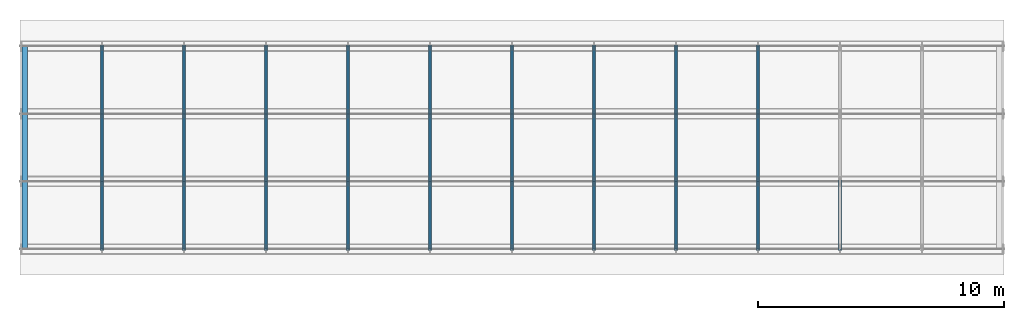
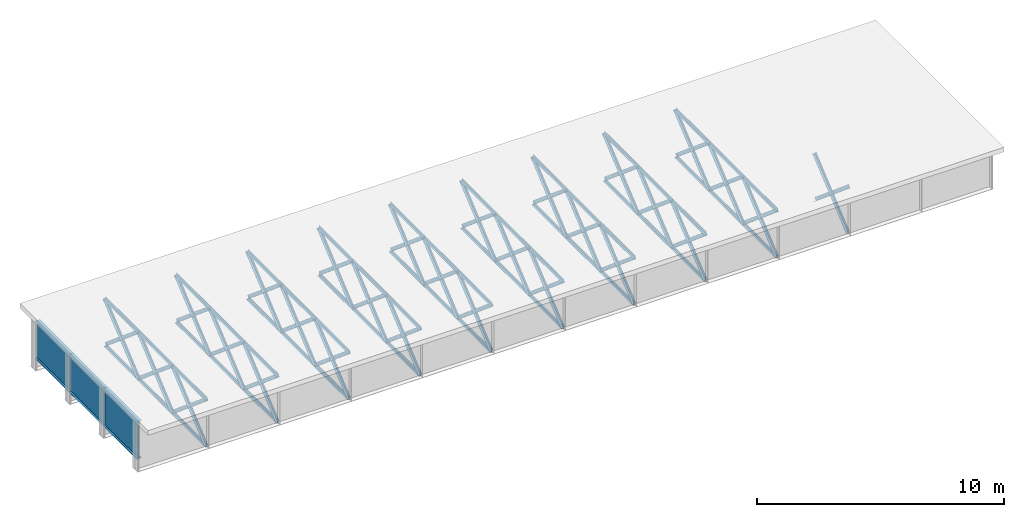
# One storey, part 1 of 13: 113 members.
"""IFC4 building model written with IfcOpenShell, lengths in metres."""

from ifc_helpers import new_model, si_unit, frame, origin, origin_with_axes, origin_2d_with_axis, place, context, subcontext, project, spatial, i_section, l_section, extrude, element, save


model = new_model("IFC4")

# Units and contexts
model_context = context("Model", 3, precision=1e-05, world=origin())
body_context = subcontext(model_context, "Body", "Model", "MODEL_VIEW")
ifc_project = project(units=[si_unit("LENGTHUNIT", "METRE"), si_unit("AREAUNIT", "SQUARE_METRE"), si_unit("VOLUMEUNIT", "CUBIC_METRE"), si_unit("PLANEANGLEUNIT", "RADIAN")], contexts=[model_context])

# Site, building, storey
site_placement = place(None, origin_with_axes())
site = spatial("IfcSite", under=ifc_project, at=site_placement, Name="Default Site")
building_placement = place(site_placement, origin_with_axes())
building = spatial("IfcBuilding", under=site, at=building_placement, Name="Bridge Structure")
storey_placement = place(building_placement, origin_with_axes())
storey = spatial("IfcBuildingStorey", under=building, at=storey_placement, Name="Superstructure")

# Members
for number, where, z_axis, x_axis, name in (
    (1, (0.2, -4.125, 0.231), (0.0, 1.0, 0.0), (-1.0, 0.0, 0.0), "End Diaphragm"),
    (2, (0.2, -1.375, 0.231), (0.0, 1.0, 0.0), (-1.0, 0.0, 0.0), "End Diaphragm"),
    (3, (0.2, 1.375, 0.231), (0.0, 1.0, 0.0), (-1.0, 0.0, 0.0), "End Diaphragm"),
):
    element("IfcMember", number, at=place(storey_placement, frame(where, z_axis=z_axis, x_axis=x_axis)), inside=storey, Name=name, context=body_context, shape_type="SweptSolid", body=[
        extrude(i_section(OverallWidth=0.225, OverallDepth=1.848, WebThickness=0.02, FlangeThickness=0.012, at=origin_2d_with_axis()), origin_with_axes(), (0.0, 0.0, 1.0), 2.75),
    ])
for number, where, z_axis, x_axis, name in (
    (4, (3.3333333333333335, -4.125, 1.155), (0.0, 0.7657048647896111, -0.6431920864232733), (-1.0, 0.0, 0.0), "Diagonal Brace"),
    (5, (3.3333333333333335, -4.125, -1.155), (0.0, 0.7657048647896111, 0.6431920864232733), (-1.0, 0.0, 0.0), "Diagonal Brace"),
):
    element("IfcMember", number, at=place(storey_placement, frame(where, z_axis=z_axis, x_axis=x_axis)), inside=storey, Name=name, context=body_context, shape_type="SweptSolid", body=[
        extrude(l_section(Depth=0.17300000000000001, Width=0.115, Thickness=0.008, at=origin_2d_with_axis()), origin_with_axes(), (0.0, 0.0, 1.0), 3.591462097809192),
    ])
for number, where, z_axis, x_axis, name in (
    (6, (3.3333333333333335, -4.125, -1.155), (0.0, 1.0, 0.0), (-1.0, 0.0, 0.0), "Bottom Chord"),
    (7, (3.3333333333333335, -4.125, 1.155), (0.0, 1.0, 0.0), (-1.0, 0.0, 0.0), "Top Chord"),
):
    element("IfcMember", number, at=place(storey_placement, frame(where, z_axis=z_axis, x_axis=x_axis)), inside=storey, Name=name, context=body_context, shape_type="SweptSolid", body=[
        extrude(l_section(Depth=0.15, Width=0.092, Thickness=0.008, at=origin_2d_with_axis()), origin_with_axes(), (0.0, 0.0, 1.0), 2.75),
    ])
for number, where, z_axis, x_axis, name in (
    (8, (3.3333333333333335, -1.375, 1.155), (0.0, 0.7657048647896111, -0.6431920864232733), (-1.0, 0.0, 0.0), "Diagonal Brace"),
    (9, (3.3333333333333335, -1.375, -1.155), (0.0, 0.7657048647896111, 0.6431920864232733), (-1.0, 0.0, 0.0), "Diagonal Brace"),
):
    element("IfcMember", number, at=place(storey_placement, frame(where, z_axis=z_axis, x_axis=x_axis)), inside=storey, Name=name, context=body_context, shape_type="SweptSolid", body=[
        extrude(l_section(Depth=0.17300000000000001, Width=0.115, Thickness=0.008, at=origin_2d_with_axis()), origin_with_axes(), (0.0, 0.0, 1.0), 3.591462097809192),
    ])
for number, where, z_axis, x_axis, name in (
    (10, (3.3333333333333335, -1.375, -1.155), (0.0, 1.0, 0.0), (-1.0, 0.0, 0.0), "Bottom Chord"),
    (11, (3.3333333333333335, -1.375, 1.155), (0.0, 1.0, 0.0), (-1.0, 0.0, 0.0), "Top Chord"),
):
    element("IfcMember", number, at=place(storey_placement, frame(where, z_axis=z_axis, x_axis=x_axis)), inside=storey, Name=name, context=body_context, shape_type="SweptSolid", body=[
        extrude(l_section(Depth=0.15, Width=0.092, Thickness=0.008, at=origin_2d_with_axis()), origin_with_axes(), (0.0, 0.0, 1.0), 2.75),
    ])
for number, where, z_axis, x_axis, name in (
    (12, (3.3333333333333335, 1.375, 1.155), (0.0, 0.7657048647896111, -0.6431920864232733), (-1.0, 0.0, 0.0), "Diagonal Brace"),
    (13, (3.3333333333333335, 1.375, -1.155), (0.0, 0.7657048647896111, 0.6431920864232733), (-1.0, 0.0, 0.0), "Diagonal Brace"),
):
    element("IfcMember", number, at=place(storey_placement, frame(where, z_axis=z_axis, x_axis=x_axis)), inside=storey, Name=name, context=body_context, shape_type="SweptSolid", body=[
        extrude(l_section(Depth=0.17300000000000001, Width=0.115, Thickness=0.008, at=origin_2d_with_axis()), origin_with_axes(), (0.0, 0.0, 1.0), 3.591462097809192),
    ])
for number, where, z_axis, x_axis, name in (
    (14, (3.3333333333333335, 1.375, -1.155), (0.0, 1.0, 0.0), (-1.0, 0.0, 0.0), "Bottom Chord"),
    (15, (3.3333333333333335, 1.375, 1.155), (0.0, 1.0, 0.0), (-1.0, 0.0, 0.0), "Top Chord"),
):
    element("IfcMember", number, at=place(storey_placement, frame(where, z_axis=z_axis, x_axis=x_axis)), inside=storey, Name=name, context=body_context, shape_type="SweptSolid", body=[
        extrude(l_section(Depth=0.15, Width=0.092, Thickness=0.008, at=origin_2d_with_axis()), origin_with_axes(), (0.0, 0.0, 1.0), 2.75),
    ])
for number, where, z_axis, x_axis, name in (
    (16, (6.666666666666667, -4.125, 1.155), (0.0, 0.7657048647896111, -0.6431920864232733), (-1.0, 0.0, 0.0), "Diagonal Brace"),
    (17, (6.666666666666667, -4.125, -1.155), (0.0, 0.7657048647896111, 0.6431920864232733), (-1.0, 0.0, 0.0), "Diagonal Brace"),
):
    element("IfcMember", number, at=place(storey_placement, frame(where, z_axis=z_axis, x_axis=x_axis)), inside=storey, Name=name, context=body_context, shape_type="SweptSolid", body=[
        extrude(l_section(Depth=0.17300000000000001, Width=0.115, Thickness=0.008, at=origin_2d_with_axis()), origin_with_axes(), (0.0, 0.0, 1.0), 3.591462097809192),
    ])
for number, where, z_axis, x_axis, name in (
    (18, (6.666666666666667, -4.125, -1.155), (0.0, 1.0, 0.0), (-1.0, 0.0, 0.0), "Bottom Chord"),
    (19, (6.666666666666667, -4.125, 1.155), (0.0, 1.0, 0.0), (-1.0, 0.0, 0.0), "Top Chord"),
):
    element("IfcMember", number, at=place(storey_placement, frame(where, z_axis=z_axis, x_axis=x_axis)), inside=storey, Name=name, context=body_context, shape_type="SweptSolid", body=[
        extrude(l_section(Depth=0.15, Width=0.092, Thickness=0.008, at=origin_2d_with_axis()), origin_with_axes(), (0.0, 0.0, 1.0), 2.75),
    ])
for number, where, z_axis, x_axis, name in (
    (20, (6.666666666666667, -1.375, 1.155), (0.0, 0.7657048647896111, -0.6431920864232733), (-1.0, 0.0, 0.0), "Diagonal Brace"),
    (21, (6.666666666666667, -1.375, -1.155), (0.0, 0.7657048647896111, 0.6431920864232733), (-1.0, 0.0, 0.0), "Diagonal Brace"),
):
    element("IfcMember", number, at=place(storey_placement, frame(where, z_axis=z_axis, x_axis=x_axis)), inside=storey, Name=name, context=body_context, shape_type="SweptSolid", body=[
        extrude(l_section(Depth=0.17300000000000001, Width=0.115, Thickness=0.008, at=origin_2d_with_axis()), origin_with_axes(), (0.0, 0.0, 1.0), 3.591462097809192),
    ])
for number, where, z_axis, x_axis, name in (
    (22, (6.666666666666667, -1.375, -1.155), (0.0, 1.0, 0.0), (-1.0, 0.0, 0.0), "Bottom Chord"),
    (23, (6.666666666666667, -1.375, 1.155), (0.0, 1.0, 0.0), (-1.0, 0.0, 0.0), "Top Chord"),
):
    element("IfcMember", number, at=place(storey_placement, frame(where, z_axis=z_axis, x_axis=x_axis)), inside=storey, Name=name, context=body_context, shape_type="SweptSolid", body=[
        extrude(l_section(Depth=0.15, Width=0.092, Thickness=0.008, at=origin_2d_with_axis()), origin_with_axes(), (0.0, 0.0, 1.0), 2.75),
    ])
for number, where, z_axis, x_axis, name in (
    (24, (6.666666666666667, 1.375, 1.155), (0.0, 0.7657048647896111, -0.6431920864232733), (-1.0, 0.0, 0.0), "Diagonal Brace"),
    (25, (6.666666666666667, 1.375, -1.155), (0.0, 0.7657048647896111, 0.6431920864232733), (-1.0, 0.0, 0.0), "Diagonal Brace"),
):
    element("IfcMember", number, at=place(storey_placement, frame(where, z_axis=z_axis, x_axis=x_axis)), inside=storey, Name=name, context=body_context, shape_type="SweptSolid", body=[
        extrude(l_section(Depth=0.17300000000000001, Width=0.115, Thickness=0.008, at=origin_2d_with_axis()), origin_with_axes(), (0.0, 0.0, 1.0), 3.591462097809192),
    ])
for number, where, z_axis, x_axis, name in (
    (26, (6.666666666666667, 1.375, -1.155), (0.0, 1.0, 0.0), (-1.0, 0.0, 0.0), "Bottom Chord"),
    (27, (6.666666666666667, 1.375, 1.155), (0.0, 1.0, 0.0), (-1.0, 0.0, 0.0), "Top Chord"),
):
    element("IfcMember", number, at=place(storey_placement, frame(where, z_axis=z_axis, x_axis=x_axis)), inside=storey, Name=name, context=body_context, shape_type="SweptSolid", body=[
        extrude(l_section(Depth=0.15, Width=0.092, Thickness=0.008, at=origin_2d_with_axis()), origin_with_axes(), (0.0, 0.0, 1.0), 2.75),
    ])
for number, where, z_axis, x_axis, name in (
    (28, (10.0, -4.125, 1.155), (0.0, 0.7657048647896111, -0.6431920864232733), (-1.0, 0.0, 0.0), "Diagonal Brace"),
    (29, (10.0, -4.125, -1.155), (0.0, 0.7657048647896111, 0.6431920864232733), (-1.0, 0.0, 0.0), "Diagonal Brace"),
):
    element("IfcMember", number, at=place(storey_placement, frame(where, z_axis=z_axis, x_axis=x_axis)), inside=storey, Name=name, context=body_context, shape_type="SweptSolid", body=[
        extrude(l_section(Depth=0.17300000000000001, Width=0.115, Thickness=0.008, at=origin_2d_with_axis()), origin_with_axes(), (0.0, 0.0, 1.0), 3.591462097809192),
    ])
for number, where, z_axis, x_axis, name in (
    (30, (10.0, -4.125, -1.155), (0.0, 1.0, 0.0), (-1.0, 0.0, 0.0), "Bottom Chord"),
    (31, (10.0, -4.125, 1.155), (0.0, 1.0, 0.0), (-1.0, 0.0, 0.0), "Top Chord"),
):
    element("IfcMember", number, at=place(storey_placement, frame(where, z_axis=z_axis, x_axis=x_axis)), inside=storey, Name=name, context=body_context, shape_type="SweptSolid", body=[
        extrude(l_section(Depth=0.15, Width=0.092, Thickness=0.008, at=origin_2d_with_axis()), origin_with_axes(), (0.0, 0.0, 1.0), 2.75),
    ])
for number, where, z_axis, x_axis, name in (
    (32, (10.0, -1.375, 1.155), (0.0, 0.7657048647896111, -0.6431920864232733), (-1.0, 0.0, 0.0), "Diagonal Brace"),
    (33, (10.0, -1.375, -1.155), (0.0, 0.7657048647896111, 0.6431920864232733), (-1.0, 0.0, 0.0), "Diagonal Brace"),
):
    element("IfcMember", number, at=place(storey_placement, frame(where, z_axis=z_axis, x_axis=x_axis)), inside=storey, Name=name, context=body_context, shape_type="SweptSolid", body=[
        extrude(l_section(Depth=0.17300000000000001, Width=0.115, Thickness=0.008, at=origin_2d_with_axis()), origin_with_axes(), (0.0, 0.0, 1.0), 3.591462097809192),
    ])
for number, where, z_axis, x_axis, name in (
    (34, (10.0, -1.375, -1.155), (0.0, 1.0, 0.0), (-1.0, 0.0, 0.0), "Bottom Chord"),
    (35, (10.0, -1.375, 1.155), (0.0, 1.0, 0.0), (-1.0, 0.0, 0.0), "Top Chord"),
):
    element("IfcMember", number, at=place(storey_placement, frame(where, z_axis=z_axis, x_axis=x_axis)), inside=storey, Name=name, context=body_context, shape_type="SweptSolid", body=[
        extrude(l_section(Depth=0.15, Width=0.092, Thickness=0.008, at=origin_2d_with_axis()), origin_with_axes(), (0.0, 0.0, 1.0), 2.75),
    ])
for number, where, z_axis, x_axis, name in (
    (36, (10.0, 1.375, 1.155), (0.0, 0.7657048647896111, -0.6431920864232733), (-1.0, 0.0, 0.0), "Diagonal Brace"),
    (37, (10.0, 1.375, -1.155), (0.0, 0.7657048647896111, 0.6431920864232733), (-1.0, 0.0, 0.0), "Diagonal Brace"),
):
    element("IfcMember", number, at=place(storey_placement, frame(where, z_axis=z_axis, x_axis=x_axis)), inside=storey, Name=name, context=body_context, shape_type="SweptSolid", body=[
        extrude(l_section(Depth=0.17300000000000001, Width=0.115, Thickness=0.008, at=origin_2d_with_axis()), origin_with_axes(), (0.0, 0.0, 1.0), 3.591462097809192),
    ])
for number, where, z_axis, x_axis, name in (
    (38, (10.0, 1.375, -1.155), (0.0, 1.0, 0.0), (-1.0, 0.0, 0.0), "Bottom Chord"),
    (39, (10.0, 1.375, 1.155), (0.0, 1.0, 0.0), (-1.0, 0.0, 0.0), "Top Chord"),
):
    element("IfcMember", number, at=place(storey_placement, frame(where, z_axis=z_axis, x_axis=x_axis)), inside=storey, Name=name, context=body_context, shape_type="SweptSolid", body=[
        extrude(l_section(Depth=0.15, Width=0.092, Thickness=0.008, at=origin_2d_with_axis()), origin_with_axes(), (0.0, 0.0, 1.0), 2.75),
    ])
for number, where, z_axis, x_axis, name in (
    (40, (13.333333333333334, -4.125, 1.155), (0.0, 0.7657048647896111, -0.6431920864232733), (-1.0, 0.0, 0.0), "Diagonal Brace"),
    (41, (13.333333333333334, -4.125, -1.155), (0.0, 0.7657048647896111, 0.6431920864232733), (-1.0, 0.0, 0.0), "Diagonal Brace"),
):
    element("IfcMember", number, at=place(storey_placement, frame(where, z_axis=z_axis, x_axis=x_axis)), inside=storey, Name=name, context=body_context, shape_type="SweptSolid", body=[
        extrude(l_section(Depth=0.17300000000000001, Width=0.115, Thickness=0.008, at=origin_2d_with_axis()), origin_with_axes(), (0.0, 0.0, 1.0), 3.591462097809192),
    ])
for number, where, z_axis, x_axis, name in (
    (42, (13.333333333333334, -4.125, -1.155), (0.0, 1.0, 0.0), (-1.0, 0.0, 0.0), "Bottom Chord"),
    (43, (13.333333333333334, -4.125, 1.155), (0.0, 1.0, 0.0), (-1.0, 0.0, 0.0), "Top Chord"),
):
    element("IfcMember", number, at=place(storey_placement, frame(where, z_axis=z_axis, x_axis=x_axis)), inside=storey, Name=name, context=body_context, shape_type="SweptSolid", body=[
        extrude(l_section(Depth=0.15, Width=0.092, Thickness=0.008, at=origin_2d_with_axis()), origin_with_axes(), (0.0, 0.0, 1.0), 2.75),
    ])
for number, where, z_axis, x_axis, name in (
    (44, (13.333333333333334, -1.375, 1.155), (0.0, 0.7657048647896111, -0.6431920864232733), (-1.0, 0.0, 0.0), "Diagonal Brace"),
    (45, (13.333333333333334, -1.375, -1.155), (0.0, 0.7657048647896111, 0.6431920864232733), (-1.0, 0.0, 0.0), "Diagonal Brace"),
):
    element("IfcMember", number, at=place(storey_placement, frame(where, z_axis=z_axis, x_axis=x_axis)), inside=storey, Name=name, context=body_context, shape_type="SweptSolid", body=[
        extrude(l_section(Depth=0.17300000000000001, Width=0.115, Thickness=0.008, at=origin_2d_with_axis()), origin_with_axes(), (0.0, 0.0, 1.0), 3.591462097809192),
    ])
for number, where, z_axis, x_axis, name in (
    (46, (13.333333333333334, -1.375, -1.155), (0.0, 1.0, 0.0), (-1.0, 0.0, 0.0), "Bottom Chord"),
    (47, (13.333333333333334, -1.375, 1.155), (0.0, 1.0, 0.0), (-1.0, 0.0, 0.0), "Top Chord"),
):
    element("IfcMember", number, at=place(storey_placement, frame(where, z_axis=z_axis, x_axis=x_axis)), inside=storey, Name=name, context=body_context, shape_type="SweptSolid", body=[
        extrude(l_section(Depth=0.15, Width=0.092, Thickness=0.008, at=origin_2d_with_axis()), origin_with_axes(), (0.0, 0.0, 1.0), 2.75),
    ])
for number, where, z_axis, x_axis, name in (
    (48, (13.333333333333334, 1.375, 1.155), (0.0, 0.7657048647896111, -0.6431920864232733), (-1.0, 0.0, 0.0), "Diagonal Brace"),
    (49, (13.333333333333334, 1.375, -1.155), (0.0, 0.7657048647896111, 0.6431920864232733), (-1.0, 0.0, 0.0), "Diagonal Brace"),
):
    element("IfcMember", number, at=place(storey_placement, frame(where, z_axis=z_axis, x_axis=x_axis)), inside=storey, Name=name, context=body_context, shape_type="SweptSolid", body=[
        extrude(l_section(Depth=0.17300000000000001, Width=0.115, Thickness=0.008, at=origin_2d_with_axis()), origin_with_axes(), (0.0, 0.0, 1.0), 3.591462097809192),
    ])
for number, where, z_axis, x_axis, name in (
    (50, (13.333333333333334, 1.375, -1.155), (0.0, 1.0, 0.0), (-1.0, 0.0, 0.0), "Bottom Chord"),
    (51, (13.333333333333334, 1.375, 1.155), (0.0, 1.0, 0.0), (-1.0, 0.0, 0.0), "Top Chord"),
):
    element("IfcMember", number, at=place(storey_placement, frame(where, z_axis=z_axis, x_axis=x_axis)), inside=storey, Name=name, context=body_context, shape_type="SweptSolid", body=[
        extrude(l_section(Depth=0.15, Width=0.092, Thickness=0.008, at=origin_2d_with_axis()), origin_with_axes(), (0.0, 0.0, 1.0), 2.75),
    ])
for number, where, z_axis, x_axis, name in (
    (52, (16.666666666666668, -4.125, 1.155), (0.0, 0.7657048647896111, -0.6431920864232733), (-1.0, 0.0, 0.0), "Diagonal Brace"),
    (53, (16.666666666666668, -4.125, -1.155), (0.0, 0.7657048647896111, 0.6431920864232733), (-1.0, 0.0, 0.0), "Diagonal Brace"),
):
    element("IfcMember", number, at=place(storey_placement, frame(where, z_axis=z_axis, x_axis=x_axis)), inside=storey, Name=name, context=body_context, shape_type="SweptSolid", body=[
        extrude(l_section(Depth=0.17300000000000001, Width=0.115, Thickness=0.008, at=origin_2d_with_axis()), origin_with_axes(), (0.0, 0.0, 1.0), 3.591462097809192),
    ])
for number, where, z_axis, x_axis, name in (
    (54, (16.666666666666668, -4.125, -1.155), (0.0, 1.0, 0.0), (-1.0, 0.0, 0.0), "Bottom Chord"),
    (55, (16.666666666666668, -4.125, 1.155), (0.0, 1.0, 0.0), (-1.0, 0.0, 0.0), "Top Chord"),
):
    element("IfcMember", number, at=place(storey_placement, frame(where, z_axis=z_axis, x_axis=x_axis)), inside=storey, Name=name, context=body_context, shape_type="SweptSolid", body=[
        extrude(l_section(Depth=0.15, Width=0.092, Thickness=0.008, at=origin_2d_with_axis()), origin_with_axes(), (0.0, 0.0, 1.0), 2.75),
    ])
for number, where, z_axis, x_axis, name in (
    (56, (16.666666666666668, -1.375, 1.155), (0.0, 0.7657048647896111, -0.6431920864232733), (-1.0, 0.0, 0.0), "Diagonal Brace"),
    (57, (16.666666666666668, -1.375, -1.155), (0.0, 0.7657048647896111, 0.6431920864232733), (-1.0, 0.0, 0.0), "Diagonal Brace"),
):
    element("IfcMember", number, at=place(storey_placement, frame(where, z_axis=z_axis, x_axis=x_axis)), inside=storey, Name=name, context=body_context, shape_type="SweptSolid", body=[
        extrude(l_section(Depth=0.17300000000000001, Width=0.115, Thickness=0.008, at=origin_2d_with_axis()), origin_with_axes(), (0.0, 0.0, 1.0), 3.591462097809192),
    ])
for number, where, z_axis, x_axis, name in (
    (58, (16.666666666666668, -1.375, -1.155), (0.0, 1.0, 0.0), (-1.0, 0.0, 0.0), "Bottom Chord"),
    (59, (16.666666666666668, -1.375, 1.155), (0.0, 1.0, 0.0), (-1.0, 0.0, 0.0), "Top Chord"),
):
    element("IfcMember", number, at=place(storey_placement, frame(where, z_axis=z_axis, x_axis=x_axis)), inside=storey, Name=name, context=body_context, shape_type="SweptSolid", body=[
        extrude(l_section(Depth=0.15, Width=0.092, Thickness=0.008, at=origin_2d_with_axis()), origin_with_axes(), (0.0, 0.0, 1.0), 2.75),
    ])
for number, where, z_axis, x_axis, name in (
    (60, (16.666666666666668, 1.375, 1.155), (0.0, 0.7657048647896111, -0.6431920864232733), (-1.0, 0.0, 0.0), "Diagonal Brace"),
    (61, (16.666666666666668, 1.375, -1.155), (0.0, 0.7657048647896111, 0.6431920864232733), (-1.0, 0.0, 0.0), "Diagonal Brace"),
):
    element("IfcMember", number, at=place(storey_placement, frame(where, z_axis=z_axis, x_axis=x_axis)), inside=storey, Name=name, context=body_context, shape_type="SweptSolid", body=[
        extrude(l_section(Depth=0.17300000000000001, Width=0.115, Thickness=0.008, at=origin_2d_with_axis()), origin_with_axes(), (0.0, 0.0, 1.0), 3.591462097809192),
    ])
for number, where, z_axis, x_axis, name in (
    (62, (16.666666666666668, 1.375, -1.155), (0.0, 1.0, 0.0), (-1.0, 0.0, 0.0), "Bottom Chord"),
    (63, (16.666666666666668, 1.375, 1.155), (0.0, 1.0, 0.0), (-1.0, 0.0, 0.0), "Top Chord"),
):
    element("IfcMember", number, at=place(storey_placement, frame(where, z_axis=z_axis, x_axis=x_axis)), inside=storey, Name=name, context=body_context, shape_type="SweptSolid", body=[
        extrude(l_section(Depth=0.15, Width=0.092, Thickness=0.008, at=origin_2d_with_axis()), origin_with_axes(), (0.0, 0.0, 1.0), 2.75),
    ])
for number, where, z_axis, x_axis, name in (
    (64, (20.0, -4.125, 1.155), (0.0, 0.7657048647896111, -0.6431920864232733), (-1.0, 0.0, 0.0), "Diagonal Brace"),
    (65, (20.0, -4.125, -1.155), (0.0, 0.7657048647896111, 0.6431920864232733), (-1.0, 0.0, 0.0), "Diagonal Brace"),
):
    element("IfcMember", number, at=place(storey_placement, frame(where, z_axis=z_axis, x_axis=x_axis)), inside=storey, Name=name, context=body_context, shape_type="SweptSolid", body=[
        extrude(l_section(Depth=0.17300000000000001, Width=0.115, Thickness=0.008, at=origin_2d_with_axis()), origin_with_axes(), (0.0, 0.0, 1.0), 3.591462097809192),
    ])
for number, where, z_axis, x_axis, name in (
    (66, (20.0, -4.125, -1.155), (0.0, 1.0, 0.0), (-1.0, 0.0, 0.0), "Bottom Chord"),
    (67, (20.0, -4.125, 1.155), (0.0, 1.0, 0.0), (-1.0, 0.0, 0.0), "Top Chord"),
):
    element("IfcMember", number, at=place(storey_placement, frame(where, z_axis=z_axis, x_axis=x_axis)), inside=storey, Name=name, context=body_context, shape_type="SweptSolid", body=[
        extrude(l_section(Depth=0.15, Width=0.092, Thickness=0.008, at=origin_2d_with_axis()), origin_with_axes(), (0.0, 0.0, 1.0), 2.75),
    ])
for number, where, z_axis, x_axis, name in (
    (68, (20.0, -1.375, 1.155), (0.0, 0.7657048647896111, -0.6431920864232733), (-1.0, 0.0, 0.0), "Diagonal Brace"),
    (69, (20.0, -1.375, -1.155), (0.0, 0.7657048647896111, 0.6431920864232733), (-1.0, 0.0, 0.0), "Diagonal Brace"),
):
    element("IfcMember", number, at=place(storey_placement, frame(where, z_axis=z_axis, x_axis=x_axis)), inside=storey, Name=name, context=body_context, shape_type="SweptSolid", body=[
        extrude(l_section(Depth=0.17300000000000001, Width=0.115, Thickness=0.008, at=origin_2d_with_axis()), origin_with_axes(), (0.0, 0.0, 1.0), 3.591462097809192),
    ])
for number, where, z_axis, x_axis, name in (
    (70, (20.0, -1.375, -1.155), (0.0, 1.0, 0.0), (-1.0, 0.0, 0.0), "Bottom Chord"),
    (71, (20.0, -1.375, 1.155), (0.0, 1.0, 0.0), (-1.0, 0.0, 0.0), "Top Chord"),
):
    element("IfcMember", number, at=place(storey_placement, frame(where, z_axis=z_axis, x_axis=x_axis)), inside=storey, Name=name, context=body_context, shape_type="SweptSolid", body=[
        extrude(l_section(Depth=0.15, Width=0.092, Thickness=0.008, at=origin_2d_with_axis()), origin_with_axes(), (0.0, 0.0, 1.0), 2.75),
    ])
for number, where, z_axis, x_axis, name in (
    (72, (20.0, 1.375, 1.155), (0.0, 0.7657048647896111, -0.6431920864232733), (-1.0, 0.0, 0.0), "Diagonal Brace"),
    (73, (20.0, 1.375, -1.155), (0.0, 0.7657048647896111, 0.6431920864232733), (-1.0, 0.0, 0.0), "Diagonal Brace"),
):
    element("IfcMember", number, at=place(storey_placement, frame(where, z_axis=z_axis, x_axis=x_axis)), inside=storey, Name=name, context=body_context, shape_type="SweptSolid", body=[
        extrude(l_section(Depth=0.17300000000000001, Width=0.115, Thickness=0.008, at=origin_2d_with_axis()), origin_with_axes(), (0.0, 0.0, 1.0), 3.591462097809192),
    ])
for number, where, z_axis, x_axis, name in (
    (74, (20.0, 1.375, -1.155), (0.0, 1.0, 0.0), (-1.0, 0.0, 0.0), "Bottom Chord"),
    (75, (20.0, 1.375, 1.155), (0.0, 1.0, 0.0), (-1.0, 0.0, 0.0), "Top Chord"),
):
    element("IfcMember", number, at=place(storey_placement, frame(where, z_axis=z_axis, x_axis=x_axis)), inside=storey, Name=name, context=body_context, shape_type="SweptSolid", body=[
        extrude(l_section(Depth=0.15, Width=0.092, Thickness=0.008, at=origin_2d_with_axis()), origin_with_axes(), (0.0, 0.0, 1.0), 2.75),
    ])
for number, where, z_axis, x_axis, name in (
    (76, (23.333333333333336, -4.125, 1.155), (0.0, 0.7657048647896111, -0.6431920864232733), (-1.0, 0.0, 0.0), "Diagonal Brace"),
    (77, (23.333333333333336, -4.125, -1.155), (0.0, 0.7657048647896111, 0.6431920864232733), (-1.0, 0.0, 0.0), "Diagonal Brace"),
):
    element("IfcMember", number, at=place(storey_placement, frame(where, z_axis=z_axis, x_axis=x_axis)), inside=storey, Name=name, context=body_context, shape_type="SweptSolid", body=[
        extrude(l_section(Depth=0.17300000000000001, Width=0.115, Thickness=0.008, at=origin_2d_with_axis()), origin_with_axes(), (0.0, 0.0, 1.0), 3.591462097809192),
    ])
for number, where, z_axis, x_axis, name in (
    (78, (23.333333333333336, -4.125, -1.155), (0.0, 1.0, 0.0), (-1.0, 0.0, 0.0), "Bottom Chord"),
    (79, (23.333333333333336, -4.125, 1.155), (0.0, 1.0, 0.0), (-1.0, 0.0, 0.0), "Top Chord"),
):
    element("IfcMember", number, at=place(storey_placement, frame(where, z_axis=z_axis, x_axis=x_axis)), inside=storey, Name=name, context=body_context, shape_type="SweptSolid", body=[
        extrude(l_section(Depth=0.15, Width=0.092, Thickness=0.008, at=origin_2d_with_axis()), origin_with_axes(), (0.0, 0.0, 1.0), 2.75),
    ])
for number, where, z_axis, x_axis, name in (
    (80, (23.333333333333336, -1.375, 1.155), (0.0, 0.7657048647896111, -0.6431920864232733), (-1.0, 0.0, 0.0), "Diagonal Brace"),
    (81, (23.333333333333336, -1.375, -1.155), (0.0, 0.7657048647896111, 0.6431920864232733), (-1.0, 0.0, 0.0), "Diagonal Brace"),
):
    element("IfcMember", number, at=place(storey_placement, frame(where, z_axis=z_axis, x_axis=x_axis)), inside=storey, Name=name, context=body_context, shape_type="SweptSolid", body=[
        extrude(l_section(Depth=0.17300000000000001, Width=0.115, Thickness=0.008, at=origin_2d_with_axis()), origin_with_axes(), (0.0, 0.0, 1.0), 3.591462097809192),
    ])
for number, where, z_axis, x_axis, name in (
    (82, (23.333333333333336, -1.375, -1.155), (0.0, 1.0, 0.0), (-1.0, 0.0, 0.0), "Bottom Chord"),
    (83, (23.333333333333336, -1.375, 1.155), (0.0, 1.0, 0.0), (-1.0, 0.0, 0.0), "Top Chord"),
):
    element("IfcMember", number, at=place(storey_placement, frame(where, z_axis=z_axis, x_axis=x_axis)), inside=storey, Name=name, context=body_context, shape_type="SweptSolid", body=[
        extrude(l_section(Depth=0.15, Width=0.092, Thickness=0.008, at=origin_2d_with_axis()), origin_with_axes(), (0.0, 0.0, 1.0), 2.75),
    ])
for number, where, z_axis, x_axis, name in (
    (84, (23.333333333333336, 1.375, 1.155), (0.0, 0.7657048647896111, -0.6431920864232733), (-1.0, 0.0, 0.0), "Diagonal Brace"),
    (85, (23.333333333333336, 1.375, -1.155), (0.0, 0.7657048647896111, 0.6431920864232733), (-1.0, 0.0, 0.0), "Diagonal Brace"),
):
    element("IfcMember", number, at=place(storey_placement, frame(where, z_axis=z_axis, x_axis=x_axis)), inside=storey, Name=name, context=body_context, shape_type="SweptSolid", body=[
        extrude(l_section(Depth=0.17300000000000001, Width=0.115, Thickness=0.008, at=origin_2d_with_axis()), origin_with_axes(), (0.0, 0.0, 1.0), 3.591462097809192),
    ])
for number, where, z_axis, x_axis, name in (
    (86, (23.333333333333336, 1.375, -1.155), (0.0, 1.0, 0.0), (-1.0, 0.0, 0.0), "Bottom Chord"),
    (87, (23.333333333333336, 1.375, 1.155), (0.0, 1.0, 0.0), (-1.0, 0.0, 0.0), "Top Chord"),
):
    element("IfcMember", number, at=place(storey_placement, frame(where, z_axis=z_axis, x_axis=x_axis)), inside=storey, Name=name, context=body_context, shape_type="SweptSolid", body=[
        extrude(l_section(Depth=0.15, Width=0.092, Thickness=0.008, at=origin_2d_with_axis()), origin_with_axes(), (0.0, 0.0, 1.0), 2.75),
    ])
for number, where, z_axis, x_axis, name in (
    (88, (26.666666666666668, -4.125, 1.155), (0.0, 0.7657048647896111, -0.6431920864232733), (-1.0, 0.0, 0.0), "Diagonal Brace"),
    (89, (26.666666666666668, -4.125, -1.155), (0.0, 0.7657048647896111, 0.6431920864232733), (-1.0, 0.0, 0.0), "Diagonal Brace"),
):
    element("IfcMember", number, at=place(storey_placement, frame(where, z_axis=z_axis, x_axis=x_axis)), inside=storey, Name=name, context=body_context, shape_type="SweptSolid", body=[
        extrude(l_section(Depth=0.17300000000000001, Width=0.115, Thickness=0.008, at=origin_2d_with_axis()), origin_with_axes(), (0.0, 0.0, 1.0), 3.591462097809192),
    ])
for number, where, z_axis, x_axis, name in (
    (90, (26.666666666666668, -4.125, -1.155), (0.0, 1.0, 0.0), (-1.0, 0.0, 0.0), "Bottom Chord"),
    (91, (26.666666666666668, -4.125, 1.155), (0.0, 1.0, 0.0), (-1.0, 0.0, 0.0), "Top Chord"),
):
    element("IfcMember", number, at=place(storey_placement, frame(where, z_axis=z_axis, x_axis=x_axis)), inside=storey, Name=name, context=body_context, shape_type="SweptSolid", body=[
        extrude(l_section(Depth=0.15, Width=0.092, Thickness=0.008, at=origin_2d_with_axis()), origin_with_axes(), (0.0, 0.0, 1.0), 2.75),
    ])
for number, where, z_axis, x_axis, name in (
    (92, (26.666666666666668, -1.375, 1.155), (0.0, 0.7657048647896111, -0.6431920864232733), (-1.0, 0.0, 0.0), "Diagonal Brace"),
    (93, (26.666666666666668, -1.375, -1.155), (0.0, 0.7657048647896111, 0.6431920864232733), (-1.0, 0.0, 0.0), "Diagonal Brace"),
):
    element("IfcMember", number, at=place(storey_placement, frame(where, z_axis=z_axis, x_axis=x_axis)), inside=storey, Name=name, context=body_context, shape_type="SweptSolid", body=[
        extrude(l_section(Depth=0.17300000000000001, Width=0.115, Thickness=0.008, at=origin_2d_with_axis()), origin_with_axes(), (0.0, 0.0, 1.0), 3.591462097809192),
    ])
for number, where, z_axis, x_axis, name in (
    (94, (26.666666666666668, -1.375, -1.155), (0.0, 1.0, 0.0), (-1.0, 0.0, 0.0), "Bottom Chord"),
    (95, (26.666666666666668, -1.375, 1.155), (0.0, 1.0, 0.0), (-1.0, 0.0, 0.0), "Top Chord"),
):
    element("IfcMember", number, at=place(storey_placement, frame(where, z_axis=z_axis, x_axis=x_axis)), inside=storey, Name=name, context=body_context, shape_type="SweptSolid", body=[
        extrude(l_section(Depth=0.15, Width=0.092, Thickness=0.008, at=origin_2d_with_axis()), origin_with_axes(), (0.0, 0.0, 1.0), 2.75),
    ])
for number, where, z_axis, x_axis, name in (
    (96, (26.666666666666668, 1.375, 1.155), (0.0, 0.7657048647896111, -0.6431920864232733), (-1.0, 0.0, 0.0), "Diagonal Brace"),
    (97, (26.666666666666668, 1.375, -1.155), (0.0, 0.7657048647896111, 0.6431920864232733), (-1.0, 0.0, 0.0), "Diagonal Brace"),
):
    element("IfcMember", number, at=place(storey_placement, frame(where, z_axis=z_axis, x_axis=x_axis)), inside=storey, Name=name, context=body_context, shape_type="SweptSolid", body=[
        extrude(l_section(Depth=0.17300000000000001, Width=0.115, Thickness=0.008, at=origin_2d_with_axis()), origin_with_axes(), (0.0, 0.0, 1.0), 3.591462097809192),
    ])
for number, where, z_axis, x_axis, name in (
    (98, (26.666666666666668, 1.375, -1.155), (0.0, 1.0, 0.0), (-1.0, 0.0, 0.0), "Bottom Chord"),
    (99, (26.666666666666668, 1.375, 1.155), (0.0, 1.0, 0.0), (-1.0, 0.0, 0.0), "Top Chord"),
):
    element("IfcMember", number, at=place(storey_placement, frame(where, z_axis=z_axis, x_axis=x_axis)), inside=storey, Name=name, context=body_context, shape_type="SweptSolid", body=[
        extrude(l_section(Depth=0.15, Width=0.092, Thickness=0.008, at=origin_2d_with_axis()), origin_with_axes(), (0.0, 0.0, 1.0), 2.75),
    ])
for number, where, z_axis, x_axis, name in (
    (100, (30.0, -4.125, 1.155), (0.0, 0.7657048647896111, -0.6431920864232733), (-1.0, 0.0, 0.0), "Diagonal Brace"),
    (101, (30.0, -4.125, -1.155), (0.0, 0.7657048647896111, 0.6431920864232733), (-1.0, 0.0, 0.0), "Diagonal Brace"),
):
    element("IfcMember", number, at=place(storey_placement, frame(where, z_axis=z_axis, x_axis=x_axis)), inside=storey, Name=name, context=body_context, shape_type="SweptSolid", body=[
        extrude(l_section(Depth=0.17300000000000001, Width=0.115, Thickness=0.008, at=origin_2d_with_axis()), origin_with_axes(), (0.0, 0.0, 1.0), 3.591462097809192),
    ])
for number, where, z_axis, x_axis, name in (
    (102, (30.0, -4.125, -1.155), (0.0, 1.0, 0.0), (-1.0, 0.0, 0.0), "Bottom Chord"),
    (103, (30.0, -4.125, 1.155), (0.0, 1.0, 0.0), (-1.0, 0.0, 0.0), "Top Chord"),
):
    element("IfcMember", number, at=place(storey_placement, frame(where, z_axis=z_axis, x_axis=x_axis)), inside=storey, Name=name, context=body_context, shape_type="SweptSolid", body=[
        extrude(l_section(Depth=0.15, Width=0.092, Thickness=0.008, at=origin_2d_with_axis()), origin_with_axes(), (0.0, 0.0, 1.0), 2.75),
    ])
for number, where, z_axis, x_axis, name in (
    (104, (30.0, -1.375, 1.155), (0.0, 0.7657048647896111, -0.6431920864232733), (-1.0, 0.0, 0.0), "Diagonal Brace"),
    (105, (30.0, -1.375, -1.155), (0.0, 0.7657048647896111, 0.6431920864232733), (-1.0, 0.0, 0.0), "Diagonal Brace"),
):
    element("IfcMember", number, at=place(storey_placement, frame(where, z_axis=z_axis, x_axis=x_axis)), inside=storey, Name=name, context=body_context, shape_type="SweptSolid", body=[
        extrude(l_section(Depth=0.17300000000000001, Width=0.115, Thickness=0.008, at=origin_2d_with_axis()), origin_with_axes(), (0.0, 0.0, 1.0), 3.591462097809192),
    ])
for number, where, z_axis, x_axis, name in (
    (106, (30.0, -1.375, -1.155), (0.0, 1.0, 0.0), (-1.0, 0.0, 0.0), "Bottom Chord"),
    (107, (30.0, -1.375, 1.155), (0.0, 1.0, 0.0), (-1.0, 0.0, 0.0), "Top Chord"),
):
    element("IfcMember", number, at=place(storey_placement, frame(where, z_axis=z_axis, x_axis=x_axis)), inside=storey, Name=name, context=body_context, shape_type="SweptSolid", body=[
        extrude(l_section(Depth=0.15, Width=0.092, Thickness=0.008, at=origin_2d_with_axis()), origin_with_axes(), (0.0, 0.0, 1.0), 2.75),
    ])
for number, where, z_axis, x_axis, name in (
    (108, (30.0, 1.375, 1.155), (0.0, 0.7657048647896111, -0.6431920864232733), (-1.0, 0.0, 0.0), "Diagonal Brace"),
    (109, (30.0, 1.375, -1.155), (0.0, 0.7657048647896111, 0.6431920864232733), (-1.0, 0.0, 0.0), "Diagonal Brace"),
):
    element("IfcMember", number, at=place(storey_placement, frame(where, z_axis=z_axis, x_axis=x_axis)), inside=storey, Name=name, context=body_context, shape_type="SweptSolid", body=[
        extrude(l_section(Depth=0.17300000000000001, Width=0.115, Thickness=0.008, at=origin_2d_with_axis()), origin_with_axes(), (0.0, 0.0, 1.0), 3.591462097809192),
    ])
for number, where, z_axis, x_axis, name in (
    (110, (30.0, 1.375, -1.155), (0.0, 1.0, 0.0), (-1.0, 0.0, 0.0), "Bottom Chord"),
    (111, (30.0, 1.375, 1.155), (0.0, 1.0, 0.0), (-1.0, 0.0, 0.0), "Top Chord"),
):
    element("IfcMember", number, at=place(storey_placement, frame(where, z_axis=z_axis, x_axis=x_axis)), inside=storey, Name=name, context=body_context, shape_type="SweptSolid", body=[
        extrude(l_section(Depth=0.15, Width=0.092, Thickness=0.008, at=origin_2d_with_axis()), origin_with_axes(), (0.0, 0.0, 1.0), 2.75),
    ])
for number, where, z_axis, x_axis, name in (
    (112, (33.333333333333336, -4.125, 1.155), (0.0, 0.7657048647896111, -0.6431920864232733), (-1.0, 0.0, 0.0), "Diagonal Brace"),
    (113, (33.333333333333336, -4.125, -1.155), (0.0, 0.7657048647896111, 0.6431920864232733), (-1.0, 0.0, 0.0), "Diagonal Brace"),
):
    element("IfcMember", number, at=place(storey_placement, frame(where, z_axis=z_axis, x_axis=x_axis)), inside=storey, Name=name, context=body_context, shape_type="SweptSolid", body=[
        extrude(l_section(Depth=0.17300000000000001, Width=0.115, Thickness=0.008, at=origin_2d_with_axis()), origin_with_axes(), (0.0, 0.0, 1.0), 3.591462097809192),
    ])

save(model, "model.ifc")
